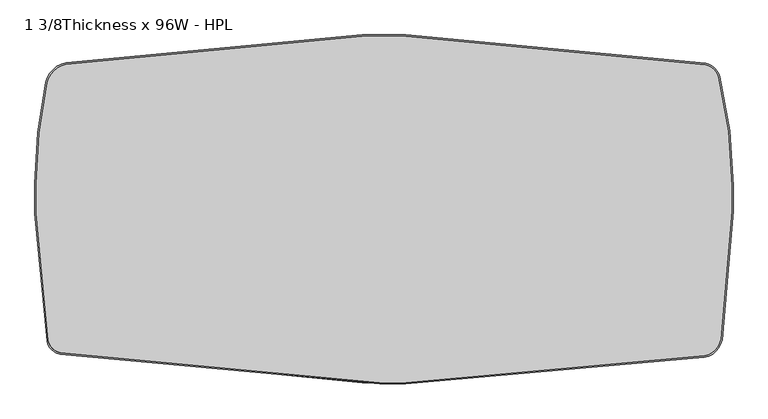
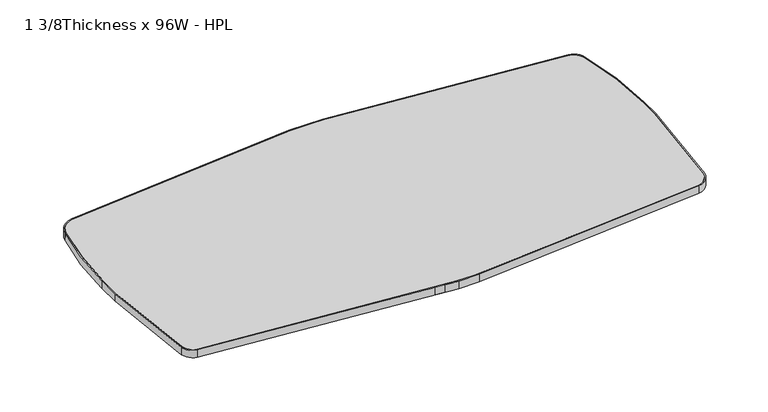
"""IFC4 building model written with IfcOpenShell, lengths in millimetres: furniture geometry, Steelcase - Groupwork - Table - Conference Table Top - Boat Shaped : 1 3/8Thickness x 96W - HPL."""

from ifc_helpers import new_model, si_unit, point, frame, frame_2d, origin, place, context, project, spatial, polyline, circle_curve, trimmed, segment, composite_curve, outline, extrude, source, transform, mapped, element, save


def furniture_1_3_8thickness_x_96w_hpl_a78dff32(model_context):
    return source(origin(), model_context, "Body", "SweptSolid", [
        extrude(outline(composite_curve([segment(polyline([(1143.0, 1219.2), (1295.4, 1219.2)]), True, "CONTINUOUS"), segment(trimmed(circle_curve(frame_2d((1295.4, -4333.0645975)), 5552.2645975), [point((1295.4, 1219.2))], [point((2342.0831072, 1119.6500139))], False, "CARTESIAN"), True, "CONTINUOUS"), segment(trimmed(circle_curve(frame_2d((2330.1124281, 1057.2885447)), 63.5), [point((2342.0831072, 1119.6500139))], [point((2391.7300018, 1072.635356))], False, "CARTESIAN"), True, "CONTINUOUS"), segment(trimmed(circle_curve(frame_2d((864.0781604, 692.15)), 1574.3218396), [point((2391.7300018, 1072.635356))], [point((2438.4, 692.15))], False, "CARTESIAN"), True, "CONTINUOUS"), segment(polyline([(2438.4, 692.15), (2438.4, 603.25)]), True, "CONTINUOUS"), segment(trimmed(circle_curve(frame_2d((-174.7531989, 603.25)), 2613.1531989), [point((2438.4, 603.25))], [point((2399.6973149, 155.1716667))], False, "CARTESIAN"), True, "CONTINUOUS"), segment(trimmed(circle_curve(frame_2d((2324.6258919, 168.2377086)), 76.2), [point((2399.6973149, 155.1716667))], [point((2338.1460247, 93.2467357))], False, "CARTESIAN"), True, "CONTINUOUS"), segment(trimmed(circle_curve(frame_2d((1295.4, 5876.9576085)), 5876.9576085), [point((2338.1460247, 93.2467357))], [point((1295.4, 0.0))], False, "CARTESIAN"), True, "CONTINUOUS"), segment(polyline([(1295.4, 0.0), (1203.5382137, 0.0)]), True, "CONTINUOUS"), segment(trimmed(circle_curve(frame_2d((1203.5382137, 6007.8214805)), 6007.8214805), [point((1203.5382137, 0.0))], [point((87.8398792, 104.5057878))], False, "CARTESIAN"), True, "CONTINUOUS"), segment(trimmed(circle_curve(frame_2d((98.4530707, 160.6616661)), 57.15), [point((87.8398792, 104.5057878))], [point((42.3185883, 149.9358847))], False, "CARTESIAN"), True, "CONTINUOUS"), segment(trimmed(circle_curve(frame_2d((2381.5513607, 596.9)), 2381.5513607), [point((42.3185883, 149.9358847))], [point((0.0, 596.9))], False, "CARTESIAN"), True, "CONTINUOUS"), segment(polyline([(0.0, 596.9), (0.0, 698.5)]), True, "CONTINUOUS"), segment(trimmed(circle_curve(frame_2d((1661.1239321, 698.5)), 1661.1239321), [point((0.0, 698.5))], [point((38.3809134, 1053.5180462))], False, "CARTESIAN"), True, "CONTINUOUS"), segment(trimmed(circle_curve(frame_2d((125.2268444, 1034.5181969)), 88.9), [point((38.3809134, 1053.5180462))], [point((108.6411232, 1121.8573282))], False, "CARTESIAN"), True, "CONTINUOUS"), segment(trimmed(circle_curve(frame_2d((1143.0, -4324.9969173)), 5544.1969173), [point((108.6411232, 1121.8573282))], [point((1143.0, 1219.2))], False, "CARTESIAN"), True, "CONTINUOUS")], self_intersect=False), holes=[composite_curve([segment(trimmed(circle_curve(frame_2d((2330.1124281, 1057.2885447)), 58.42), [point((2386.8005959, 1071.4076111))], [point((2341.1254528, 1114.6610964))], True, "CARTESIAN"), True, "CONTINUOUS"), segment(trimmed(circle_curve(frame_2d((1295.4, -4333.0645975)), 5547.1845975), [point((2341.1254528, 1114.6610964))], [point((1295.4, 1214.12))], True, "CARTESIAN"), True, "CONTINUOUS"), segment(polyline([(1295.4, 1214.12), (1143.0, 1214.12)]), True, "CONTINUOUS"), segment(trimmed(circle_curve(frame_2d((1143.0, -4324.9969173)), 5539.1169173), [point((1143.0, 1214.12))], [point((109.5888787, 1116.8665207))], True, "CARTESIAN"), True, "CONTINUOUS"), segment(trimmed(circle_curve(frame_2d((125.2268444, 1034.5181969)), 83.82), [point((109.5888787, 1116.8665207))], [point((43.343538, 1052.4323405))], True, "CARTESIAN"), True, "CONTINUOUS"), segment(trimmed(circle_curve(frame_2d((1661.1239321, 698.5)), 1656.0439321), [point((43.343538, 1052.4323405))], [point((5.08, 698.5))], True, "CARTESIAN"), True, "CONTINUOUS"), segment(polyline([(5.08, 698.5), (5.08, 596.9)]), True, "CONTINUOUS"), segment(trimmed(circle_curve(frame_2d((2381.5513607, 596.9)), 2376.4713607), [point((5.08, 596.9))], [point((47.3083201, 150.8892875))], True, "CARTESIAN"), True, "CONTINUOUS"), segment(trimmed(circle_curve(frame_2d((98.4530707, 160.6616661)), 52.07), [point((47.3083201, 150.8892875))], [point((88.783274, 109.4974214))], True, "CARTESIAN"), True, "CONTINUOUS"), segment(trimmed(circle_curve(frame_2d((1203.5382137, 6007.8214805)), 6002.7414805), [point((88.783274, 109.4974214))], [point((1203.5382137, 5.08))], True, "CARTESIAN"), True, "CONTINUOUS"), segment(polyline([(1203.5382137, 5.08), (1295.4, 5.08)]), True, "CONTINUOUS"), segment(trimmed(circle_curve(frame_2d((1295.4, 5876.9576085)), 5871.8776085), [point((1295.4, 5.08))], [point((2337.2446825, 98.2461339))], True, "CARTESIAN"), True, "CONTINUOUS"), segment(trimmed(circle_curve(frame_2d((2324.6258919, 168.2377086)), 71.12), [point((2337.2446825, 98.2461339))], [point((2394.6925534, 156.0427362))], True, "CARTESIAN"), True, "CONTINUOUS"), segment(trimmed(circle_curve(frame_2d((-174.7531989, 603.25)), 2608.0731989), [point((2394.6925534, 156.0427362))], [point((2433.32, 603.25))], True, "CARTESIAN"), True, "CONTINUOUS"), segment(polyline([(2433.32, 603.25), (2433.32, 692.15)]), True, "CONTINUOUS"), segment(trimmed(circle_curve(frame_2d((864.0781604, 692.15)), 1569.2418396), [point((2433.32, 692.15))], [point((2386.8005959, 1071.4076111))], True, "CARTESIAN"), True, "CONTINUOUS")], self_intersect=False)]), frame((0.0, 0.0, 694.944), z_axis=(0.0, 0.0, 1.0), x_axis=(1.0, 0.0, 0.0)), (0.0, 0.0, 1.0), 35.052),
        extrude(outline(composite_curve([segment(polyline([(1143.0, 1214.12), (1295.4, 1214.12)]), True, "CONTINUOUS"), segment(trimmed(circle_curve(frame_2d((1295.4, -4333.0645975)), 5547.1845975), [point((1295.4, 1214.12))], [point((2341.1254528, 1114.6610964))], False, "CARTESIAN"), True, "CONTINUOUS"), segment(trimmed(circle_curve(frame_2d((2330.1124281, 1057.2885447)), 58.42), [point((2341.1254528, 1114.6610964))], [point((2386.8005959, 1071.4076111))], False, "CARTESIAN"), True, "CONTINUOUS"), segment(trimmed(circle_curve(frame_2d((864.0781604, 692.15)), 1569.2418396), [point((2386.8005959, 1071.4076111))], [point((2433.32, 692.15))], False, "CARTESIAN"), True, "CONTINUOUS"), segment(polyline([(2433.32, 692.15), (2433.32, 603.25)]), True, "CONTINUOUS"), segment(trimmed(circle_curve(frame_2d((-174.7531989, 603.25)), 2608.0731989), [point((2433.32, 603.25))], [point((2394.6925534, 156.0427362))], False, "CARTESIAN"), True, "CONTINUOUS"), segment(trimmed(circle_curve(frame_2d((2324.6258919, 168.2377086)), 71.12), [point((2394.6925534, 156.0427362))], [point((2337.2446825, 98.2461339))], False, "CARTESIAN"), True, "CONTINUOUS"), segment(trimmed(circle_curve(frame_2d((1295.4, 5876.9576085)), 5871.8776085), [point((2337.2446825, 98.2461339))], [point((1295.4, 5.08))], False, "CARTESIAN"), True, "CONTINUOUS"), segment(polyline([(1295.4, 5.08), (1143.0, 5.08)]), True, "CONTINUOUS"), segment(trimmed(circle_curve(frame_2d((1143.0, 5379.0678276)), 5373.9878276), [point((1143.0, 5.08))], [point((89.5417536, 109.3457387))], False, "CARTESIAN"), True, "CONTINUOUS"), segment(trimmed(circle_curve(frame_2d((100.1340058, 162.3314413)), 54.0340678), [point((89.5417536, 109.3457387))], [point((47.0543122, 152.220724))], False, "CARTESIAN"), True, "CONTINUOUS"), segment(trimmed(circle_curve(frame_2d((2381.5513607, 596.9)), 2376.4713607), [point((47.0543122, 152.220724))], [point((5.08, 596.9))], False, "CARTESIAN"), True, "CONTINUOUS"), segment(polyline([(5.08, 596.9), (5.08, 698.5)]), True, "CONTINUOUS"), segment(trimmed(circle_curve(frame_2d((1661.1239321, 698.5)), 1656.0439321), [point((5.08, 698.5))], [point((43.343538, 1052.4323405))], False, "CARTESIAN"), True, "CONTINUOUS"), segment(trimmed(circle_curve(frame_2d((125.2268444, 1034.5181969)), 83.82), [point((43.343538, 1052.4323405))], [point((109.5888787, 1116.8665207))], False, "CARTESIAN"), True, "CONTINUOUS"), segment(trimmed(circle_curve(frame_2d((1143.0, -4324.9969173)), 5539.1169173), [point((109.5888787, 1116.8665207))], [point((1143.0, 1214.12))], False, "CARTESIAN"), True, "CONTINUOUS")], self_intersect=False)), frame((0.0, 0.0, 694.944), z_axis=(0.0, 0.0, 1.0), x_axis=(1.0, 0.0, 0.0)), (0.0, 0.0, 1.0), 35.052),
    ])


if __name__ == "__main__":
    model = new_model("IFC4")
    model_context = context("Model", 3, world=origin())
    ifc_project = project(units=[si_unit("LENGTHUNIT", "METRE", prefix="MILLI")], contexts=[model_context])
    site = spatial("IfcSite", under=ifc_project)
    building = spatial("IfcBuilding", under=site)
    placement = place(None, origin())
    furniture_1_3_8thickness_x_96w_hpl_shape = furniture_1_3_8thickness_x_96w_hpl_a78dff32(model_context)
    element("IfcFurniture", 1, ObjectType="Steelcase - Groupwork - Table - Conference Table Top - Boat Shaped : 1 3/8Thickness x 96W - HPL", at=placement, inside=building, context=model_context, shape_type="MappedRepresentation", body=[
        mapped(furniture_1_3_8thickness_x_96w_hpl_shape, transform((0.0, 0.0, 0.0), x_axis=(1.0, 0.0, 0.0), y_axis=(0.0, 1.0, 0.0), z_axis=(0.0, 0.0, 1.0))),
    ])
    save(model, "model.ifc")
